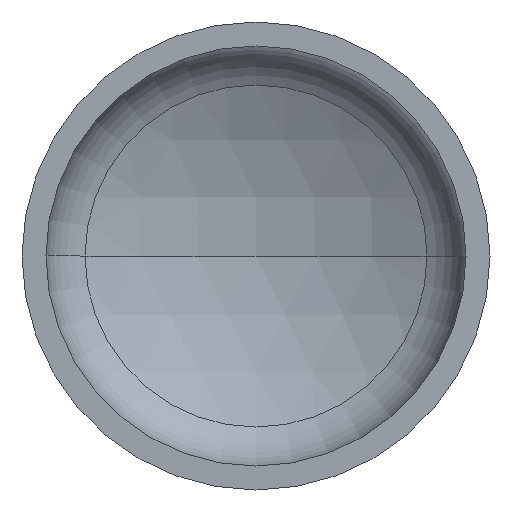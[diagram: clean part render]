
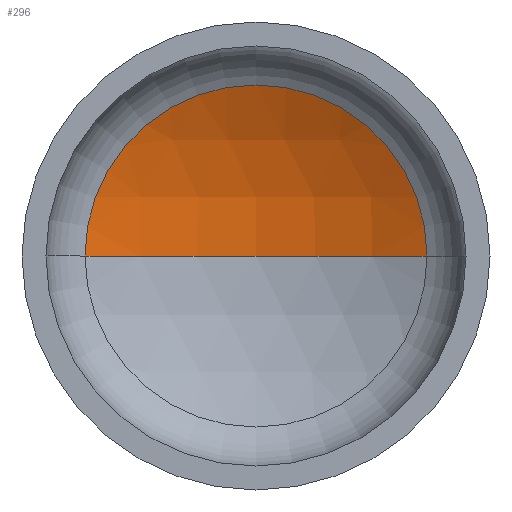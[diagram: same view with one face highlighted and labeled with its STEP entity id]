
A CAD part, front view. The second image highlights one B-rep face of the part: STEP entity #296.
In plain terms, the highlighted spherical face has radius 406 mm.
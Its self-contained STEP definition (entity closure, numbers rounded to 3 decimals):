
#7 = AXIS2_PLACEMENT_3D ( 'NONE', #249, #408, #195 ) ;
#11 = EDGE_LOOP ( 'NONE', ( #127, #91, #42 ) ) ;
#32 = AXIS2_PLACEMENT_3D ( 'NONE', #288, #186, #57 ) ;
#42 = ORIENTED_EDGE ( 'NONE', *, *, #352, .T. ) ;
#48 = VERTEX_POINT ( 'NONE', #266 ) ;
#57 = DIRECTION ( 'NONE',  ( 1., 0., 0. ) ) ;
#73 = AXIS2_PLACEMENT_3D ( 'NONE', #214, #213, #248 ) ;
#79 = VERTEX_POINT ( 'NONE', #363 ) ;
#91 = ORIENTED_EDGE ( 'NONE', *, *, #391, .T. ) ;
#105 = VERTEX_POINT ( 'NONE', #234 ) ;
#127 = ORIENTED_EDGE ( 'NONE', *, *, #386, .F. ) ;
#164 = FACE_OUTER_BOUND ( 'NONE', #11, .T. ) ;
#170 = DIRECTION ( 'NONE',  ( 0., 0., -1. ) ) ;
#186 = DIRECTION ( 'NONE',  ( 0., -1., 0. ) ) ;
#195 = DIRECTION ( 'NONE',  ( 1., 0., 0. ) ) ;
#204 = CIRCLE ( 'NONE', #7, 406. ) ;
#213 = DIRECTION ( 'NONE',  ( 0., 0., -1. ) ) ;
#214 = CARTESIAN_POINT ( 'NONE',  ( 0., -206.692, 0. ) ) ;
#234 = CARTESIAN_POINT ( 'NONE',  ( -185.671, 154.366, 0. ) ) ;
#248 = DIRECTION ( 'NONE',  ( -1., 0., 0. ) ) ;
#249 = CARTESIAN_POINT ( 'NONE',  ( 0., -206.692, 0. ) ) ;
#261 = AXIS2_PLACEMENT_3D ( 'NONE', #321, #170, #346 ) ;
#266 = CARTESIAN_POINT ( 'NONE',  ( 0., 199.308, 0. ) ) ;
#288 = CARTESIAN_POINT ( 'NONE',  ( 0., 154.366, 0. ) ) ;
#296 = ADVANCED_FACE ( 'NONE', ( #164 ), #302, .F. ) ;
#302 = SPHERICAL_SURFACE ( 'NONE', #73, 406. ) ;
#321 = CARTESIAN_POINT ( 'NONE',  ( 0., -206.692, 0. ) ) ;
#330 = CIRCLE ( 'NONE', #261, 406. ) ;
#344 = CIRCLE ( 'NONE', #32, 185.671 ) ;
#346 = DIRECTION ( 'NONE',  ( -1., 0., 0. ) ) ;
#352 = EDGE_CURVE ( 'NONE', #79, #105, #344, .T. ) ;
#363 = CARTESIAN_POINT ( 'NONE',  ( 185.671, 154.366, 0. ) ) ;
#386 = EDGE_CURVE ( 'NONE', #48, #105, #204, .T. ) ;
#391 = EDGE_CURVE ( 'NONE', #48, #79, #330, .T. ) ;
#408 = DIRECTION ( 'NONE',  ( 0., 0., 1. ) ) ;
